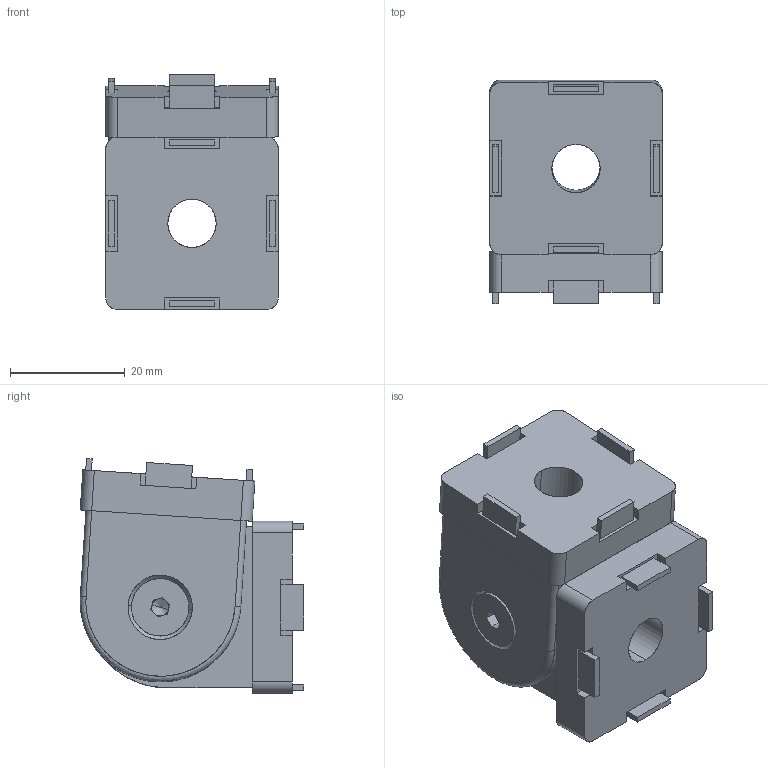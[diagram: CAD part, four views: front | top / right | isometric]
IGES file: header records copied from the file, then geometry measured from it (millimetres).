
Start section: SolidWorks IGES file using analytic representation for surfaces
Global section: file name: D:\LETROMEC CATALOGUE\SWIVEL JOINT\CP-SJ30X30\CP-SJ30X30.IGS; native system: SolidWorks 2013; preprocessor: SolidWorks 2013; author: User; date: 180316.203153; units: millimetre
Bounding box: 30 x 38.93 x 40.9 mm (x, y, z)
Surface area: 12948.5 mm2 (no closed solid volume)
Topology: 0 solids, 0 shells, 188 faces, 1792 edges, 1788 vertices
Faces by surface type: bspline 132, revolution 56
